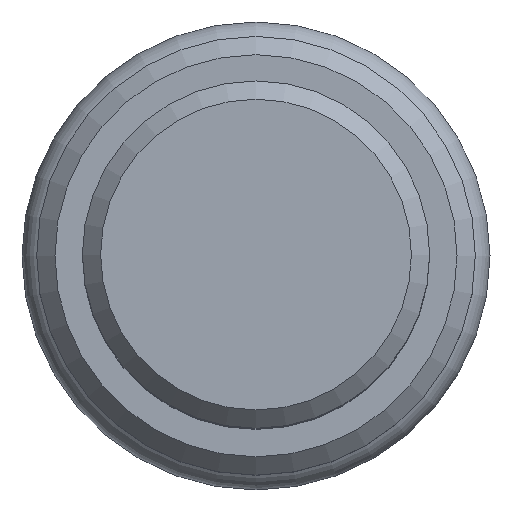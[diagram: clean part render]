
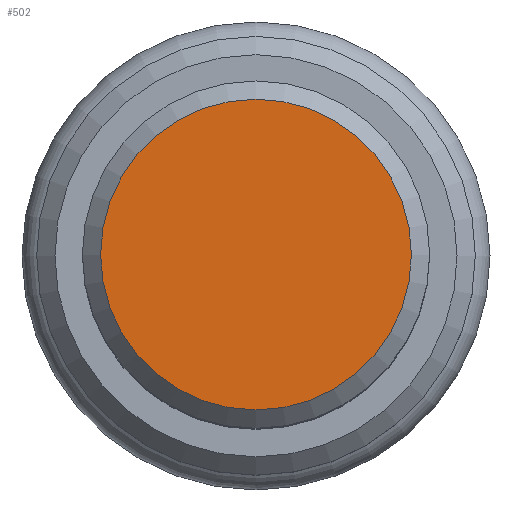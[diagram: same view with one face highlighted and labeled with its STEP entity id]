
A CAD part, top view. The second image highlights one B-rep face of the part: STEP entity #502.
In plain terms, the highlighted planar face has unit normal (0, 0, 1).
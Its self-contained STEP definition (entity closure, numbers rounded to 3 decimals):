
#117 = AXIS2_PLACEMENT_3D ( 'NONE', #376, #324, #156 ) ;
#136 = CIRCLE ( 'NONE', #535, 4.25 ) ;
#156 = DIRECTION ( 'NONE',  ( 1., 0., 0. ) ) ;
#199 = ORIENTED_EDGE ( 'NONE', *, *, #682, .F. ) ;
#324 = DIRECTION ( 'NONE',  ( 0., 0., 1. ) ) ;
#344 = DIRECTION ( 'NONE',  ( 0., 0., -1. ) ) ;
#376 = CARTESIAN_POINT ( 'NONE',  ( 0., 4.25, 31.6 ) ) ;
#475 = PLANE ( 'NONE',  #117 ) ;
#480 = FACE_OUTER_BOUND ( 'NONE', #513, .T. ) ;
#502 = ADVANCED_FACE ( 'NONE', ( #480 ), #475, .T. ) ;
#513 = EDGE_LOOP ( 'NONE', ( #199 ) ) ;
#530 = CARTESIAN_POINT ( 'NONE',  ( -4.25, 0., 31.6 ) ) ;
#535 = AXIS2_PLACEMENT_3D ( 'NONE', #630, #344, #674 ) ;
#630 = CARTESIAN_POINT ( 'NONE',  ( 0., 0., 31.6 ) ) ;
#644 = VERTEX_POINT ( 'NONE', #530 ) ;
#674 = DIRECTION ( 'NONE',  ( -1., 0., 0. ) ) ;
#682 = EDGE_CURVE ( 'NONE', #644, #644, #136, .T. ) ;
